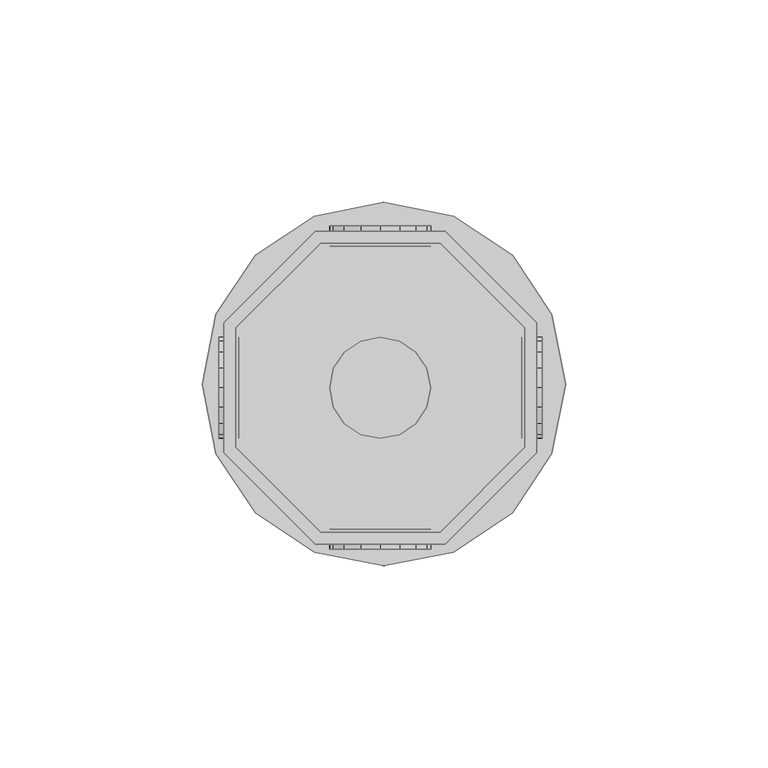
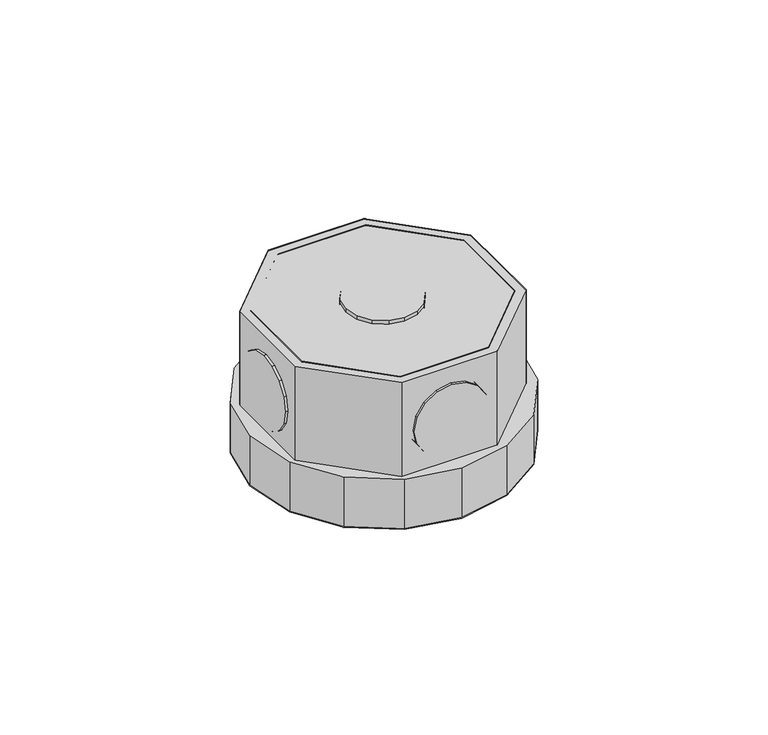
"""IFC4 building model written with IfcOpenShell, lengths in millimetres: light fixture geometry,  213382 :  213382."""

from ifc_helpers import new_model, si_unit, origin, place, context, project, spatial, triangles, source, transform, mapped, element, save


def light_fixture_6131706c(model_context):
    return source(origin(), model_context, "Body", "Tessellation", [
        triangles([(13764.500528, 18744.6000366, 2924.5999741), (13764.500528, 18714.9995178, 2975.400071), (13764.500528, 18714.9995178, 2924.5999741), (13764.500528, 18744.6000366, 2975.400071), (13838.999469, 18745.7999634, 2924.5999741), (13838.999469, 18713.6995972, 2975.400071), (13838.999469, 18713.6995972, 2924.5999741), (13838.999469, 18745.7999634, 2975.400071), (13785.5004089, 18693.9996368, 2975.400071), (13785.5004089, 18693.9996368, 2924.5999741), (13816.2996918, 18768.4997406, 2924.5999741), (13816.2996918, 18768.4997406, 2975.400071), (13815.099765, 18693.9996368, 2975.400071), (13815.099765, 18693.9996368, 2924.5999741), (13784.2004883, 18768.4997406, 2924.5999741), (13784.2004883, 18768.4997406, 2975.400071), (13835.9996521, 18714.9995178, 2975.400071), (13835.9996521, 18714.9995178, 2924.5999741), (13761.4995483, 18745.7999634, 2924.5999741), (13761.4995483, 18745.7999634, 2975.400071), (13835.9996521, 18744.6000366, 2924.5999741), (13835.9996521, 18744.6000366, 2975.400071), (13761.4995483, 18713.6995972, 2975.400071), (13761.4995483, 18713.6995972, 2924.5999741), (13815.099765, 18765.4999237, 2924.5999741), (13815.099765, 18765.4999237, 2975.400071), (13784.2004883, 18690.9998199, 2975.400071), (13784.2004883, 18690.9998199, 2924.5999741), (13816.2996918, 18690.9998199, 2975.400071), (13785.5004089, 18765.4999237, 2975.400071), (13785.5004089, 18765.4999237, 2924.5999741), (13816.2996918, 18690.9998199, 2924.5999741), (13815.099765, 18693.9996368, 2972.3999634), (13835.9996521, 18714.9995178, 2972.3999634), (13835.9996521, 18744.6000366, 2972.3999634), (13815.099765, 18765.4999237, 2972.3999634), (13785.5004089, 18765.4999237, 2972.3999634), (13764.500528, 18744.6000366, 2972.3999634), (13764.500528, 18714.9995178, 2972.3999634), (13785.5004089, 18693.9996368, 2972.3999634), (13784.2004883, 18690.9998199, 2942.4000504), (13761.4995483, 18713.6995972, 2942.4000504), (13761.4995483, 18745.7999634, 2942.4000504), (13784.2004883, 18768.4997406, 2942.4000504), (13816.2996918, 18768.4997406, 2942.4000504), (13838.999469, 18745.7999634, 2942.4000504), (13838.999469, 18713.6995972, 2942.4000504), (13816.2996918, 18690.9998199, 2942.4000504), (13842.7004059, 18713.3996155, 2942.4000504), (13818.3995636, 18689.0999359, 2942.4000504), (13832.9998352, 18698.8005066, 2942.4000504), (13801.1994507, 18685.7001434, 2942.4000504), (13783.9005066, 18689.0999359, 2942.4000504), (13769.300235, 18698.8005066, 2942.4000504), (13759.5996643, 18713.3996155, 2942.4000504), (13756.1998718, 18730.6997223, 2942.4000504), (13759.5996643, 18747.8998352, 2942.4000504), (13783.9005066, 18772.1995148, 2942.4000504), (13769.300235, 18762.5001068, 2942.4000504), (13846.2001923, 18730.6997223, 2942.4000504), (13842.7004059, 18747.8998352, 2942.4000504), (13832.9998352, 18762.5001068, 2942.4000504), (13818.3995636, 18772.1995148, 2942.4000504), (13801.1994507, 18775.7004639, 2942.4000504), (13818.3995636, 18689.0999359, 2924.5999741), (13842.7004059, 18713.3996155, 2924.5999741), (13832.9998352, 18698.8005066, 2924.5999741), (13801.1994507, 18685.7001434, 2924.5999741), (13783.9005066, 18689.0999359, 2924.5999741), (13769.300235, 18698.8005066, 2924.5999741), (13759.5996643, 18713.3996155, 2924.5999741), (13756.1998718, 18730.6997223, 2924.5999741), (13759.5996643, 18747.8998352, 2924.5999741), (13783.9005066, 18772.1995148, 2924.5999741), (13769.300235, 18762.5001068, 2924.5999741), (13846.2001923, 18730.6997223, 2924.5999741), (13842.7004059, 18747.8998352, 2924.5999741), (13832.9998352, 18762.5001068, 2924.5999741), (13818.3995636, 18772.1995148, 2924.5999741), (13801.1994507, 18775.7004639, 2924.5999741), (13760.2996216, 18718.2004852, 2952.6000092), (13760.2996216, 18725.0000702, 2945.9001274), (13760.2996216, 18720.9003204, 2948.5999626), (13760.2996216, 18717.3005402, 2957.4000069), (13760.2996216, 18729.7997772, 2944.8998978), (13760.2996216, 18718.2004852, 2962.2000046), (13760.2996216, 18734.5994843, 2945.9001274), (13760.2996216, 18720.9003204, 2966.2000511), (13760.2996216, 18738.6004028, 2948.5999626), (13760.2996216, 18725.0000702, 2968.8998863), (13760.2996216, 18741.300238, 2952.6000092), (13760.2996216, 18729.7997772, 2969.900116), (13760.2996216, 18742.300177, 2957.4000069), (13760.2996216, 18734.5994843, 2968.8998863), (13760.2996216, 18741.300238, 2962.2000046), (13760.2996216, 18738.6004028, 2966.2000511), (13765.3004791, 18725.0000702, 2945.9001274), (13765.3004791, 18718.2004852, 2952.6000092), (13765.3004791, 18720.9003204, 2948.5999626), (13765.3004791, 18729.7997772, 2944.8998978), (13765.3004791, 18717.3005402, 2957.4000069), (13765.3004791, 18734.5994843, 2945.9001274), (13765.3004791, 18718.2004852, 2962.2000046), (13765.3004791, 18738.6004028, 2948.5999626), (13765.3004791, 18720.9003204, 2966.2000511), (13765.3004791, 18725.0000702, 2968.8998863), (13765.3004791, 18741.300238, 2952.6000092), (13765.3004791, 18729.7997772, 2969.900116), (13765.3004791, 18742.300177, 2957.4000069), (13765.3004791, 18734.5994843, 2968.8998863), (13765.3004791, 18741.300238, 2962.2000046), (13765.3004791, 18738.6004028, 2966.2000511), (13835.2996948, 18718.2004852, 2952.6000092), (13835.2996948, 18725.0000702, 2945.9001274), (13835.2996948, 18720.9003204, 2948.5999626), (13835.2996948, 18717.3005402, 2957.4000069), (13835.2996948, 18729.7997772, 2944.8998978), (13835.2996948, 18718.2004852, 2962.2000046), (13835.2996948, 18734.5994843, 2945.9001274), (13835.2996948, 18720.9003204, 2966.2000511), (13835.2996948, 18738.6004028, 2948.5999626), (13835.2996948, 18725.0000702, 2968.8998863), (13835.2996948, 18741.300238, 2952.6000092), (13835.2996948, 18729.7997772, 2969.900116), (13835.2996948, 18742.300177, 2957.4000069), (13835.2996948, 18734.5994843, 2968.8998863), (13835.2996948, 18741.300238, 2962.2000046), (13835.2996948, 18738.6004028, 2966.2000511), (13840.3005524, 18725.0000702, 2945.9001274), (13840.3005524, 18718.2004852, 2952.6000092), (13840.3005524, 18720.9003204, 2948.5999626), (13840.3005524, 18729.7997772, 2944.8998978), (13840.3005524, 18717.3005402, 2957.4000069), (13840.3005524, 18734.5994843, 2945.9001274), (13840.3005524, 18718.2004852, 2962.2000046), (13840.3005524, 18738.6004028, 2948.5999626), (13840.3005524, 18720.9003204, 2966.2000511), (13840.3005524, 18725.0000702, 2968.8998863), (13840.3005524, 18741.300238, 2952.6000092), (13840.3005524, 18729.7997772, 2969.900116), (13840.3005524, 18742.300177, 2957.4000069), (13840.3005524, 18734.5994843, 2968.8998863), (13840.3005524, 18741.300238, 2962.2000046), (13840.3005524, 18738.6004028, 2966.2000511), (13805.1003754, 18694.799588, 2945.9001274), (13811.7999664, 18694.799588, 2952.6000092), (13809.1001312, 18694.799588, 2948.5999626), (13800.2995056, 18694.799588, 2944.8998978), (13812.7999054, 18694.799588, 2957.4000069), (13795.4997986, 18694.799588, 2945.9001274), (13811.7999664, 18694.799588, 2962.2000046), (13791.4000488, 18694.799588, 2948.5999626), (13809.1001312, 18694.799588, 2966.2000511), (13805.1003754, 18694.799588, 2968.8998863), (13788.7002136, 18694.799588, 2952.6000092), (13800.2995056, 18694.799588, 2969.900116), (13787.8002686, 18694.799588, 2957.4000069), (13795.4997986, 18694.799588, 2968.8998863), (13788.7002136, 18694.799588, 2962.2000046), (13791.4000488, 18694.799588, 2966.2000511), (13811.7999664, 18689.7998932, 2952.6000092), (13805.1003754, 18689.7998932, 2945.9001274), (13809.1001312, 18689.7998932, 2948.5999626), (13812.7999054, 18689.7998932, 2957.4000069), (13800.2995056, 18689.7998932, 2944.8998978), (13811.7999664, 18689.7998932, 2962.2000046), (13795.4997986, 18689.7998932, 2945.9001274), (13809.1001312, 18689.7998932, 2966.2000511), (13791.4000488, 18689.7998932, 2948.5999626), (13805.1003754, 18689.7998932, 2968.8998863), (13788.7002136, 18689.7998932, 2952.6000092), (13800.2995056, 18689.7998932, 2969.900116), (13787.8002686, 18689.7998932, 2957.4000069), (13795.4997986, 18689.7998932, 2968.8998863), (13788.7002136, 18689.7998932, 2962.2000046), (13791.4000488, 18689.7998932, 2966.2000511), (13805.1003754, 18769.7996613, 2945.9001274), (13811.7999664, 18769.7996613, 2952.6000092), (13809.1001312, 18769.7996613, 2948.5999626), (13800.2995056, 18769.7996613, 2944.8998978), (13812.7999054, 18769.7996613, 2957.4000069), (13795.4997986, 18769.7996613, 2945.9001274), (13811.7999664, 18769.7996613, 2962.2000046), (13791.4000488, 18769.7996613, 2948.5999626), (13809.1001312, 18769.7996613, 2966.2000511), (13805.1003754, 18769.7996613, 2968.8998863), (13788.7002136, 18769.7996613, 2952.6000092), (13800.2995056, 18769.7996613, 2969.900116), (13787.8002686, 18769.7996613, 2957.4000069), (13795.4997986, 18769.7996613, 2968.8998863), (13788.7002136, 18769.7996613, 2962.2000046), (13791.4000488, 18769.7996613, 2966.2000511), (13811.7999664, 18764.7999664, 2952.6000092), (13805.1003754, 18764.7999664, 2945.9001274), (13809.1001312, 18764.7999664, 2948.5999626), (13812.7999054, 18764.7999664, 2957.4000069), (13800.2995056, 18764.7999664, 2944.8998978), (13811.7999664, 18764.7999664, 2962.2000046), (13795.4997986, 18764.7999664, 2945.9001274), (13809.1001312, 18764.7999664, 2966.2000511), (13791.4000488, 18764.7999664, 2948.5999626), (13805.1003754, 18764.7999664, 2968.8998863), (13788.7002136, 18764.7999664, 2952.6000092), (13800.2995056, 18764.7999664, 2969.900116), (13787.8002686, 18764.7999664, 2957.4000069), (13795.4997986, 18764.7999664, 2968.8998863), (13788.7002136, 18764.7999664, 2962.2000046), (13791.4000488, 18764.7999664, 2966.2000511), (13811.7999664, 18725.0000702, 2976.9999733), (13805.1003754, 18718.2004852, 2976.9999733), (13809.1001312, 18720.9003204, 2976.9999733), (13800.2995056, 18717.3005402, 2976.9999733), (13812.7999054, 18729.7997772, 2976.9999733), (13795.4997986, 18718.2004852, 2976.9999733), (13811.7999664, 18734.5994843, 2976.9999733), (13791.4000488, 18720.9003204, 2976.9999733), (13809.1001312, 18738.6004028, 2976.9999733), (13788.7002136, 18725.0000702, 2976.9999733), (13805.1003754, 18741.300238, 2976.9999733), (13787.8002686, 18729.7997772, 2976.9999733), (13800.2995056, 18742.300177, 2976.9999733), (13788.7002136, 18734.5994843, 2976.9999733), (13795.4997986, 18741.300238, 2976.9999733), (13791.4000488, 18738.6004028, 2976.9999733), (13805.1003754, 18718.2004852, 2971.9999878), (13811.7999664, 18725.0000702, 2971.9999878), (13809.1001312, 18720.9003204, 2971.9999878), (13800.2995056, 18717.3005402, 2971.9999878), (13812.7999054, 18729.7997772, 2971.9999878), (13795.4997986, 18718.2004852, 2971.9999878), (13811.7999664, 18734.5994843, 2971.9999878), (13791.4000488, 18720.9003204, 2971.9999878), (13809.1001312, 18738.6004028, 2971.9999878), (13788.7002136, 18725.0000702, 2971.9999878), (13805.1003754, 18741.300238, 2971.9999878), (13787.8002686, 18729.7997772, 2971.9999878), (13800.2995056, 18742.300177, 2971.9999878), (13788.7002136, 18734.5994843, 2971.9999878), (13795.4997986, 18741.300238, 2971.9999878), (13791.4000488, 18738.6004028, 2971.9999878)], [[1, 2, 3], [2, 1, 4], [5, 6, 7], [6, 5, 8], [3, 9, 10], [9, 3, 2], [11, 8, 5], [8, 11, 12], [10, 13, 14], [13, 10, 9], [15, 12, 11], [12, 15, 16], [14, 17, 18], [17, 14, 13], [19, 16, 15], [16, 19, 20], [17, 21, 18], [21, 17, 22], [23, 19, 24], [19, 23, 20], [22, 25, 21], [25, 22, 26], [27, 24, 28], [24, 27, 23], [6, 13, 29], [29, 13, 27], [27, 13, 9], [27, 9, 23], [23, 9, 2], [23, 2, 4], [23, 4, 20], [20, 4, 30], [8, 17, 6], [6, 17, 13], [17, 8, 22], [12, 22, 8], [22, 12, 26], [30, 26, 12], [16, 30, 12], [20, 30, 16], [30, 1, 31], [1, 30, 4], [6, 32, 7], [32, 6, 29], [32, 14, 7], [28, 14, 32], [14, 28, 10], [24, 10, 28], [10, 24, 3], [1, 3, 24], [19, 1, 24], [31, 1, 19], [7, 18, 5], [14, 18, 7], [5, 18, 21], [5, 21, 11], [11, 21, 25], [11, 25, 31], [11, 31, 15], [15, 31, 19], [26, 31, 25], [31, 26, 30], [29, 28, 32], [28, 29, 27], [17, 33, 34], [33, 17, 13], [35, 17, 34], [17, 35, 22], [36, 22, 35], [22, 36, 26], [37, 26, 36], [26, 37, 30], [38, 30, 37], [30, 38, 4], [2, 38, 39], [38, 2, 4], [17, 9, 13], [9, 17, 22], [9, 22, 2], [2, 22, 26], [2, 26, 4], [4, 26, 30], [13, 40, 33], [40, 13, 9], [40, 34, 33], [35, 34, 40], [35, 40, 39], [35, 39, 36], [36, 39, 38], [36, 38, 37], [9, 39, 40], [39, 9, 2], [24, 41, 28], [41, 24, 42], [19, 42, 24], [42, 19, 43], [44, 19, 15], [19, 44, 43], [45, 15, 11], [15, 45, 44], [46, 11, 5], [11, 46, 45], [47, 5, 7], [5, 47, 46], [32, 47, 7], [47, 32, 48], [28, 48, 32], [48, 28, 41], [49, 50, 51], [48, 50, 49], [50, 48, 52], [41, 52, 48], [52, 41, 53], [53, 41, 54], [42, 54, 41], [54, 42, 55], [55, 42, 43], [55, 43, 56], [56, 43, 57], [57, 43, 44], [57, 44, 58], [57, 58, 59], [47, 49, 60], [49, 47, 48], [47, 60, 46], [61, 46, 60], [46, 61, 62], [46, 62, 45], [45, 62, 63], [44, 45, 63], [44, 63, 64], [44, 64, 58], [65, 66, 67], [66, 65, 32], [68, 32, 65], [32, 68, 28], [28, 68, 69], [70, 28, 69], [28, 70, 24], [71, 24, 70], [19, 24, 71], [19, 71, 72], [73, 19, 72], [19, 73, 15], [74, 15, 73], [74, 73, 75], [76, 66, 7], [32, 7, 66], [5, 76, 7], [76, 5, 77], [77, 5, 78], [11, 78, 5], [78, 11, 79], [79, 11, 15], [79, 15, 80], [80, 15, 74], [57, 75, 73], [75, 57, 59], [56, 73, 72], [73, 56, 57], [55, 72, 71], [72, 55, 56], [54, 71, 70], [71, 54, 55], [53, 70, 69], [70, 53, 54], [52, 69, 68], [69, 52, 53], [50, 68, 65], [68, 50, 52], [51, 65, 67], [65, 51, 50], [66, 51, 67], [51, 66, 49], [76, 49, 66], [49, 76, 60], [77, 60, 76], [60, 77, 61], [78, 61, 77], [61, 78, 62], [79, 62, 78], [62, 79, 63], [80, 63, 79], [63, 80, 64], [75, 58, 74], [58, 75, 59], [74, 64, 80], [64, 74, 58], [81, 82, 83], [82, 81, 84], [85, 82, 84], [85, 84, 86], [87, 85, 86], [87, 86, 88], [87, 88, 89], [89, 88, 90], [89, 90, 91], [91, 90, 92], [91, 92, 93], [93, 92, 94], [93, 94, 95], [95, 94, 96], [97, 98, 99], [98, 97, 100], [101, 98, 100], [101, 100, 102], [103, 101, 102], [103, 102, 104], [103, 104, 105], [105, 104, 106], [106, 104, 107], [106, 107, 108], [108, 107, 109], [108, 109, 110], [110, 109, 111], [110, 111, 112], [87, 104, 102], [104, 87, 89], [85, 102, 100], [102, 85, 87], [82, 100, 97], [100, 82, 85], [83, 97, 99], [97, 83, 82], [98, 83, 99], [83, 98, 81], [101, 81, 98], [81, 101, 84], [103, 84, 101], [84, 103, 86], [105, 86, 103], [86, 105, 88], [106, 88, 105], [88, 106, 90], [108, 90, 106], [90, 108, 92], [110, 92, 108], [92, 110, 94], [112, 94, 110], [94, 112, 96], [95, 112, 111], [112, 95, 96], [93, 111, 109], [111, 93, 95], [89, 107, 104], [107, 89, 91], [91, 109, 107], [109, 91, 93], [113, 114, 115], [114, 113, 116], [117, 114, 116], [117, 116, 118], [119, 117, 118], [119, 118, 120], [119, 120, 121], [121, 120, 122], [121, 122, 123], [123, 122, 124], [123, 124, 125], [125, 124, 126], [125, 126, 127], [127, 126, 128], [129, 130, 131], [130, 129, 132], [133, 130, 132], [133, 132, 134], [135, 133, 134], [135, 134, 136], [135, 136, 137], [137, 136, 138], [138, 136, 139], [138, 139, 140], [140, 139, 141], [140, 141, 142], [142, 141, 143], [142, 143, 144], [119, 136, 134], [136, 119, 121], [117, 134, 132], [134, 117, 119], [114, 132, 129], [132, 114, 117], [115, 129, 131], [129, 115, 114], [130, 115, 131], [115, 130, 113], [133, 113, 130], [113, 133, 116], [135, 116, 133], [116, 135, 118], [137, 118, 135], [118, 137, 120], [138, 120, 137], [120, 138, 122], [140, 122, 138], [122, 140, 124], [142, 124, 140], [124, 142, 126], [144, 126, 142], [126, 144, 128], [127, 144, 143], [144, 127, 128], [125, 143, 141], [143, 125, 127], [121, 139, 136], [139, 121, 123], [123, 141, 139], [141, 123, 125], [145, 146, 147], [146, 145, 148], [149, 146, 148], [149, 148, 150], [151, 149, 150], [151, 150, 152], [151, 152, 153], [153, 152, 154], [154, 152, 155], [154, 155, 156], [156, 155, 157], [156, 157, 158], [158, 157, 159], [158, 159, 160], [161, 162, 163], [162, 161, 164], [165, 162, 164], [165, 164, 166], [167, 165, 166], [167, 166, 168], [169, 167, 168], [169, 168, 170], [169, 170, 171], [171, 170, 172], [171, 172, 173], [173, 172, 174], [173, 174, 175], [175, 174, 176], [158, 176, 174], [176, 158, 160], [156, 174, 172], [174, 156, 158], [154, 172, 170], [172, 154, 156], [153, 170, 168], [170, 153, 154], [151, 168, 166], [168, 151, 153], [149, 166, 164], [166, 149, 151], [146, 164, 161], [164, 146, 149], [147, 161, 163], [161, 147, 146], [162, 147, 163], [147, 162, 145], [165, 145, 162], [145, 165, 148], [167, 148, 165], [148, 167, 150], [169, 150, 167], [150, 169, 152], [171, 152, 169], [152, 171, 155], [173, 155, 171], [155, 173, 157], [176, 159, 175], [159, 176, 160], [175, 157, 173], [157, 175, 159], [177, 178, 179], [178, 177, 180], [181, 178, 180], [181, 180, 182], [183, 181, 182], [183, 182, 184], [183, 184, 185], [185, 184, 186], [186, 184, 187], [186, 187, 188], [188, 187, 189], [188, 189, 190], [190, 189, 191], [190, 191, 192], [193, 194, 195], [194, 193, 196], [197, 194, 196], [197, 196, 198], [199, 197, 198], [199, 198, 200], [201, 199, 200], [201, 200, 202], [201, 202, 203], [203, 202, 204], [203, 204, 205], [205, 204, 206], [205, 206, 207], [207, 206, 208], [190, 208, 206], [208, 190, 192], [188, 206, 204], [206, 188, 190], [186, 204, 202], [204, 186, 188], [185, 202, 200], [202, 185, 186], [183, 200, 198], [200, 183, 185], [181, 198, 196], [198, 181, 183], [178, 196, 193], [196, 178, 181], [179, 193, 195], [193, 179, 178], [194, 179, 195], [179, 194, 177], [197, 177, 194], [177, 197, 180], [199, 180, 197], [180, 199, 182], [201, 182, 199], [182, 201, 184], [203, 184, 201], [184, 203, 187], [205, 187, 203], [187, 205, 189], [208, 191, 207], [191, 208, 192], [207, 189, 205], [189, 207, 191], [209, 210, 211], [212, 210, 209], [212, 209, 213], [214, 212, 213], [214, 213, 215], [216, 214, 215], [216, 215, 217], [216, 217, 218], [218, 217, 219], [218, 219, 220], [220, 219, 221], [220, 221, 222], [222, 221, 223], [222, 223, 224], [225, 226, 227], [226, 225, 228], [229, 226, 228], [229, 228, 230], [231, 229, 230], [231, 230, 232], [231, 232, 233], [233, 232, 234], [233, 234, 235], [235, 234, 236], [235, 236, 237], [237, 236, 238], [237, 238, 239], [239, 238, 240], [222, 240, 238], [240, 222, 224], [220, 238, 236], [238, 220, 222], [218, 236, 234], [236, 218, 220], [216, 234, 232], [234, 216, 218], [214, 232, 230], [232, 214, 216], [212, 230, 228], [230, 212, 214], [210, 228, 225], [228, 210, 212], [211, 225, 227], [225, 211, 210], [226, 211, 227], [211, 226, 209], [229, 209, 226], [209, 229, 213], [231, 213, 229], [213, 231, 215], [233, 215, 231], [215, 233, 217], [235, 217, 233], [217, 235, 219], [237, 219, 235], [219, 237, 221], [240, 223, 239], [223, 240, 224], [239, 221, 237], [221, 239, 223]], closed=False),
    ])


if __name__ == "__main__":
    model = new_model("IFC4")
    model_context = context("Model", 3, world=origin())
    ifc_project = project(units=[si_unit("LENGTHUNIT", "METRE", prefix="MILLI")], contexts=[model_context])
    site = spatial("IfcSite", under=ifc_project)
    building = spatial("IfcBuilding", under=site)
    placement = place(None, origin())
    light_fixture_shape = light_fixture_6131706c(model_context)
    element("IfcLightFixture", 1, ObjectType=" 213382 :  213382", at=placement, inside=building, context=model_context, shape_type="MappedRepresentation", body=[
        mapped(light_fixture_shape, transform((0.0, 0.0, 0.0), x_axis=(1.0, 0.0, 0.0), y_axis=(0.0, 1.0, 0.0), z_axis=(0.0, 0.0, 1.0))),
    ])
    save(model, "model.ifc")
